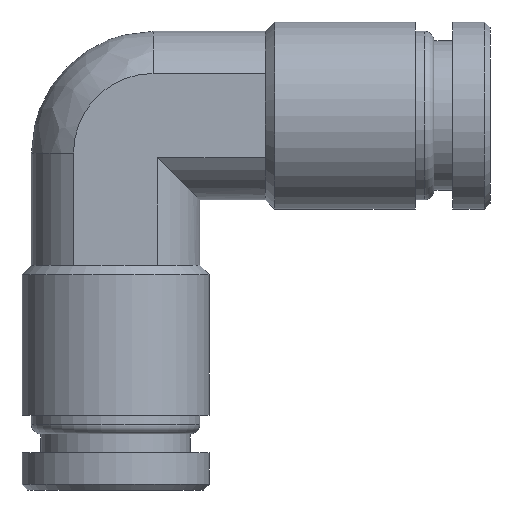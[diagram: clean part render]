
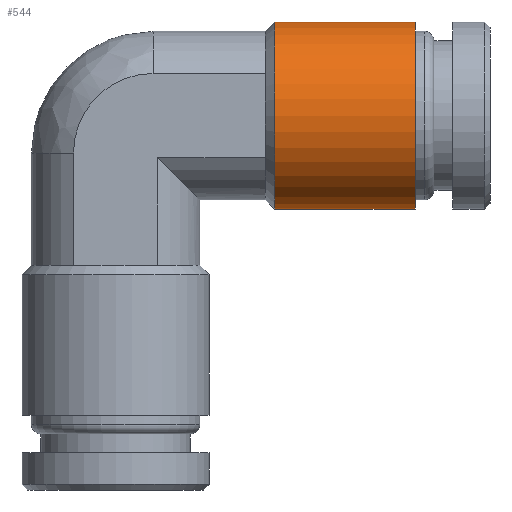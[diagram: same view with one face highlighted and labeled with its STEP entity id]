
A CAD part, left-side view. The second image highlights one B-rep face of the part: STEP entity #544.
In plain terms, the highlighted cylindrical face has radius 5 mm (diameter 10 mm), a full revolution.
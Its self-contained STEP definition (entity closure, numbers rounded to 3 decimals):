
#55=LINE('',#954,#83);
#83=VECTOR('',#764,5.);
#108=CYLINDRICAL_SURFACE('',#636,5.);
#132=FACE_OUTER_BOUND('',#174,.T.);
#174=EDGE_LOOP('',(#414,#415,#416,#417));
#218=CIRCLE('',#635,5.);
#219=CIRCLE('',#637,5.);
#267=VERTEX_POINT('',#949);
#268=VERTEX_POINT('',#952);
#320=EDGE_CURVE('',#267,#267,#218,.T.);
#321=EDGE_CURVE('',#268,#268,#219,.T.);
#322=EDGE_CURVE('',#268,#267,#55,.T.);
#414=ORIENTED_EDGE('',*,*,#321,.F.);
#415=ORIENTED_EDGE('',*,*,#322,.T.);
#416=ORIENTED_EDGE('',*,*,#320,.T.);
#417=ORIENTED_EDGE('',*,*,#322,.F.);
#544=ADVANCED_FACE('',(#132),#108,.T.);
#635=AXIS2_PLACEMENT_3D('',#950,#758,#759);
#636=AXIS2_PLACEMENT_3D('',#951,#760,#761);
#637=AXIS2_PLACEMENT_3D('',#953,#762,#763);
#758=DIRECTION('center_axis',(0.,1.,0.));
#759=DIRECTION('ref_axis',(1.,0.,0.));
#760=DIRECTION('center_axis',(0.,1.,0.));
#761=DIRECTION('ref_axis',(0.,0.,1.));
#762=DIRECTION('center_axis',(0.,1.,0.));
#763=DIRECTION('ref_axis',(1.,0.,0.));
#764=DIRECTION('',(0.,-1.,0.));
#949=CARTESIAN_POINT('',(0.,-8.,-5.));
#950=CARTESIAN_POINT('Origin',(0.,-8.,0.));
#951=CARTESIAN_POINT('Origin',(0.,-4.25,0.));
#952=CARTESIAN_POINT('',(0.,-0.5,-5.));
#953=CARTESIAN_POINT('Origin',(0.,-0.5,0.));
#954=CARTESIAN_POINT('',(0.,-4.25,-5.));
